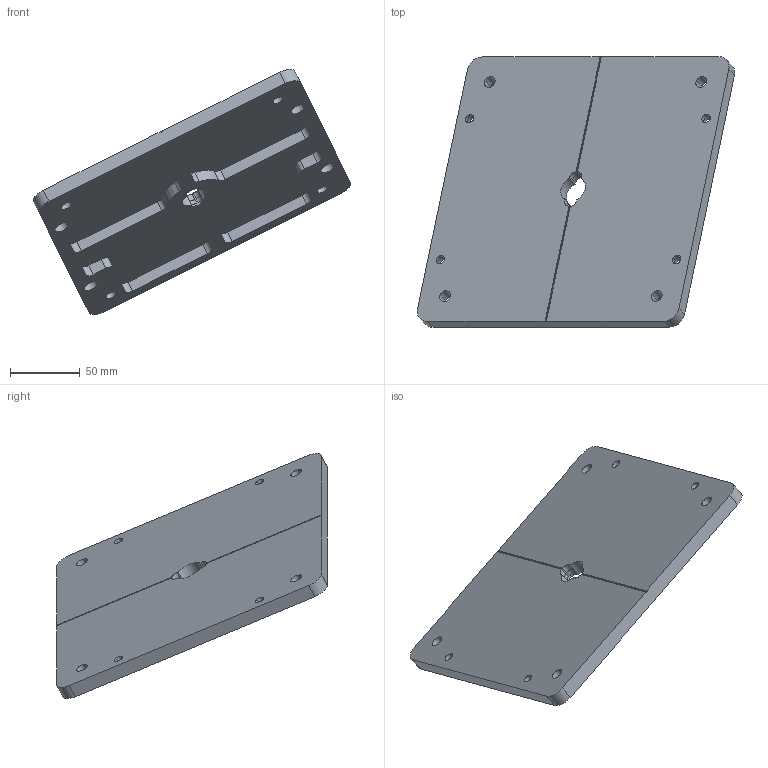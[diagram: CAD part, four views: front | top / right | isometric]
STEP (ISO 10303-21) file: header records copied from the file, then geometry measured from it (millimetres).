
FILE_DESCRIPTION(('CATIA V5 STEP Exchange'),'2;1');
FILE_NAME('D:\姚明阳\1、工装图纸\2.0小气囊角度定位\AGZ135.01_V1.stp','2025-04-27T02:48:15+00:00',('none'),('none'),'CATIA Version 5 Release 21 GA (IN-10)','CATIA V5 STEP AP214','none');
FILE_SCHEMA(('AUTOMOTIVE_DESIGN { 1 0 10303 214 1 1 1 1 }'));
Length unit declared in the file: millimetre
Products named in the file (1): 产品2_AllCATPart
Bounding box: 228.19 x 194.55 x 176.46 mm (x, y, z)
Volume: 214086.2 mm3; surface area: 109011 mm2
Topology: 1 solids, 1 shells, 122 faces, 349 edges, 236 vertices
Faces by surface type: cylinder 71, plane 51
Entity records: 3815 total; most frequent: CARTESIAN_POINT 704, ORIENTED_EDGE 698, DIRECTION 517, EDGE_CURVE 349, VERTEX_POINT 236, AXIS2_PLACEMENT_3D 232, VECTOR 196, LINE 196
